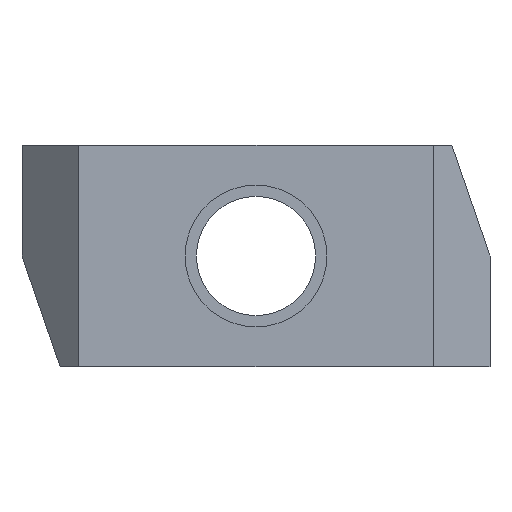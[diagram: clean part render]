
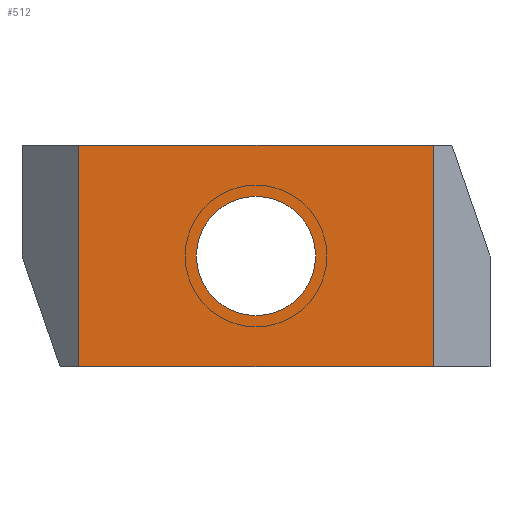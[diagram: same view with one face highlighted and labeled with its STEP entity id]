
A CAD part, front view. The second image highlights one B-rep face of the part: STEP entity #512.
In plain terms, the highlighted planar face has unit normal (0, -1, 0).
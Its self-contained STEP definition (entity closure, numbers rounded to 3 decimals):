
#131=DIRECTION('',(0.,0.,1.));
#132=VECTOR('',#131,7.8);
#133=CARTESIAN_POINT('',(6.25,-4.,-3.9));
#134=LINE('',#133,#132);
#151=DIRECTION('',(-1.,0.,0.));
#152=VECTOR('',#151,12.5);
#153=CARTESIAN_POINT('',(6.25,-4.,3.9));
#154=LINE('',#153,#152);
#155=DIRECTION('',(1.,0.,0.));
#156=VECTOR('',#155,12.5);
#157=CARTESIAN_POINT('',(-6.25,-4.,-3.9));
#158=LINE('',#157,#156);
#159=CARTESIAN_POINT('',(0.,-4.,0.));
#160=DIRECTION('',(0.,1.,0.));
#161=DIRECTION('',(1.,0.,0.));
#162=AXIS2_PLACEMENT_3D('',#159,#160,#161);
#164=CARTESIAN_POINT('',(0.,-4.,0.));
#165=DIRECTION('',(0.,1.,0.));
#166=DIRECTION('',(-1.,0.,0.));
#167=AXIS2_PLACEMENT_3D('',#164,#165,#166);
#169=DIRECTION('',(0.,0.,-1.));
#170=VECTOR('',#169,7.8);
#171=CARTESIAN_POINT('',(-6.25,-4.,3.9));
#172=LINE('',#171,#170);
#259=CARTESIAN_POINT('',(2.1,-4.,0.));
#260=CARTESIAN_POINT('',(-2.1,-4.,0.));
#261=VERTEX_POINT('',#259);
#262=VERTEX_POINT('',#260);
#267=CARTESIAN_POINT('',(-6.25,-4.,3.9));
#268=CARTESIAN_POINT('',(-6.25,-4.,-3.9));
#269=VERTEX_POINT('',#267);
#270=VERTEX_POINT('',#268);
#277=CARTESIAN_POINT('',(6.25,-4.,-3.9));
#278=CARTESIAN_POINT('',(6.25,-4.,3.9));
#279=VERTEX_POINT('',#277);
#280=VERTEX_POINT('',#278);
#494=CARTESIAN_POINT('',(0.,-4.,0.));
#495=DIRECTION('',(0.,1.,0.));
#496=DIRECTION('',(1.,0.,0.));
#497=AXIS2_PLACEMENT_3D('',#494,#495,#496);
#498=PLANE('',#497);
#499=ORIENTED_EDGE('',*,*,#440,.F.);
#500=ORIENTED_EDGE('',*,*,#485,.F.);
#501=ORIENTED_EDGE('',*,*,#353,.F.);
#503=ORIENTED_EDGE('',*,*,#502,.F.);
#504=EDGE_LOOP('',(#499,#500,#501,#503));
#505=FACE_OUTER_BOUND('',#504,.F.);
#507=ORIENTED_EDGE('',*,*,#506,.F.);
#509=ORIENTED_EDGE('',*,*,#508,.F.);
#510=EDGE_LOOP('',(#507,#509));
#511=FACE_BOUND('',#510,.F.);
#512=ADVANCED_FACE('',(#505,#511),#498,.F.);
#163=CIRCLE('',#162,2.1);
#168=CIRCLE('',#167,2.1);
#353=EDGE_CURVE('',#270,#279,#158,.T.);
#440=EDGE_CURVE('',#280,#269,#154,.T.);
#485=EDGE_CURVE('',#279,#280,#134,.T.);
#502=EDGE_CURVE('',#269,#270,#172,.T.);
#506=EDGE_CURVE('',#261,#262,#163,.T.);
#508=EDGE_CURVE('',#262,#261,#168,.T.);
